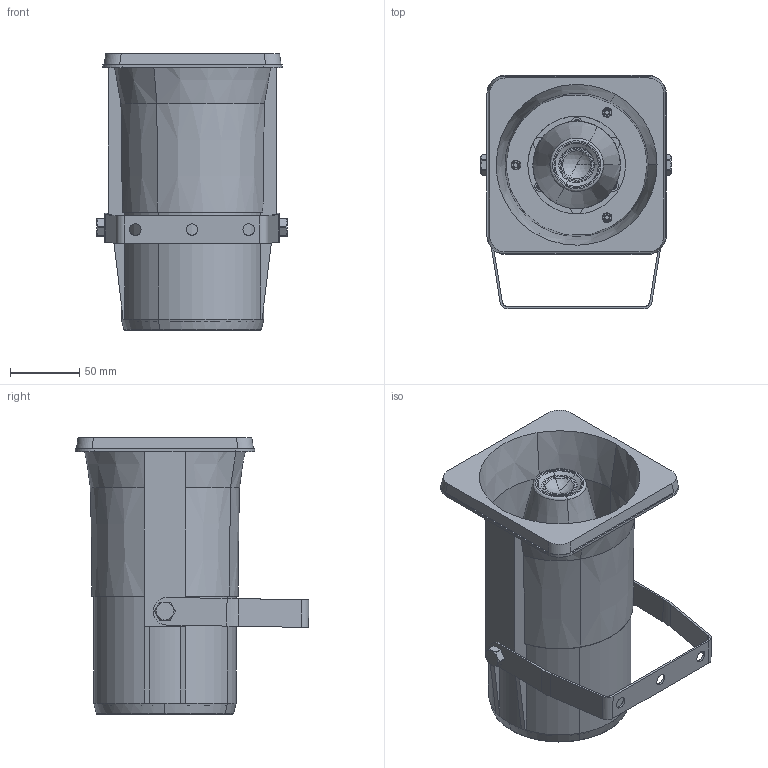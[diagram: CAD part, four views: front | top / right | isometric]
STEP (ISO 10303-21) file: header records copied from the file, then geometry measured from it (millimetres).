
FILE_DESCRIPTION((''),'2;1');
FILE_NAME('ASM0017_ASM','2024-11-07T',('Administrator'),(''),'PRO/ENGINEER BY PARAMETRIC TECHNOLOGY CORPORATION, 2015240','PRO/ENGINEER BY PARAMETRIC TECHNOLOGY CORPORATION, 2015240','');
FILE_SCHEMA(('CONFIG_CONTROL_DESIGN'));
Length unit declared in the file: inch
Products named in the file (3): PRT0193; LS; ASM0017_ASM
Assembly tree (3 placements, depth 2):
  ASM0017_ASM
    PRT0193
    LS  x2
Bounding box: 138.12 x 169.15 x 200 mm (x, y, z)
Volume: 1021600.8 mm3; surface area: 210787.8 mm2
Topology: 3 solids, 5 shells, 395 faces, 1110 edges, 755 vertices
Faces by surface type: cylinder 178, plane 134, cone 54, torus 23, sphere 6
Entity records: 12927 total; most frequent: CARTESIAN_POINT 2774, DIRECTION 2234, ORIENTED_EDGE 2090, EDGE_CURVE 1045, AXIS2_PLACEMENT_3D 922, VERTEX_POINT 715, CIRCLE 547, EDGE_LOOP 442
